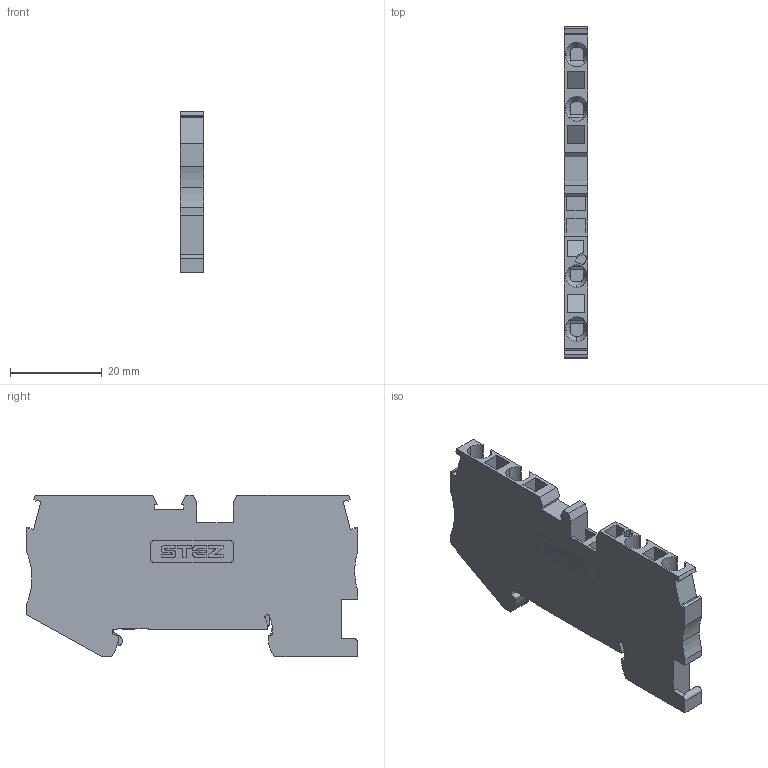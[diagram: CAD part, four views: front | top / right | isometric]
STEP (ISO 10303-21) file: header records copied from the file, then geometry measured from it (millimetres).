
FILE_DESCRIPTION(('TFLEX Exchange Step'),'2;1');
FILE_NAME('10000142_KH3_2,5-4-PE.stp', '2023-10-02T14:17:23+03:00',('apanin'),('Unknown organisation'),'TFLEX Exchange 2023.0','T-FLEX CAD','Unknown authorisation');
FILE_SCHEMA( ('AUTOMOTIVE_DESIGN { 1 0 10303 214 1 1 1 1 }') );
Length unit declared in the file: millimetre
Products named in the file (1): Тело_1:1
Bounding box: 5.15 x 72.2 x 35.25 mm (x, y, z)
Volume: 9516 mm3; surface area: 6838.1 mm2
Topology: 1 solids, 1 shells, 466 faces, 1347 edges, 895 vertices
Faces by surface type: plane 229, cylinder 221, cone 16
Entity records: 16421 total; most frequent: CARTESIAN_POINT 3934, ORIENTED_EDGE 2694, DIRECTION 2508, EDGE_CURVE 1347, AXIS2_PLACEMENT_3D 907, VERTEX_POINT 895, VECTOR 694, LINE 694
